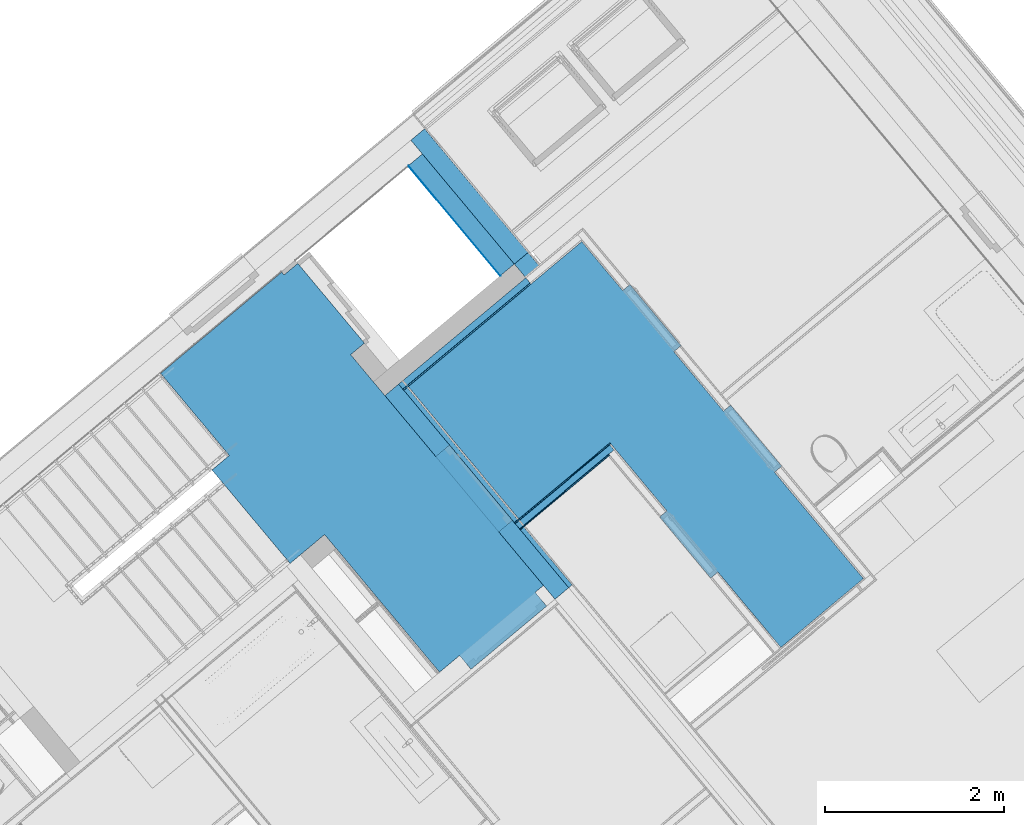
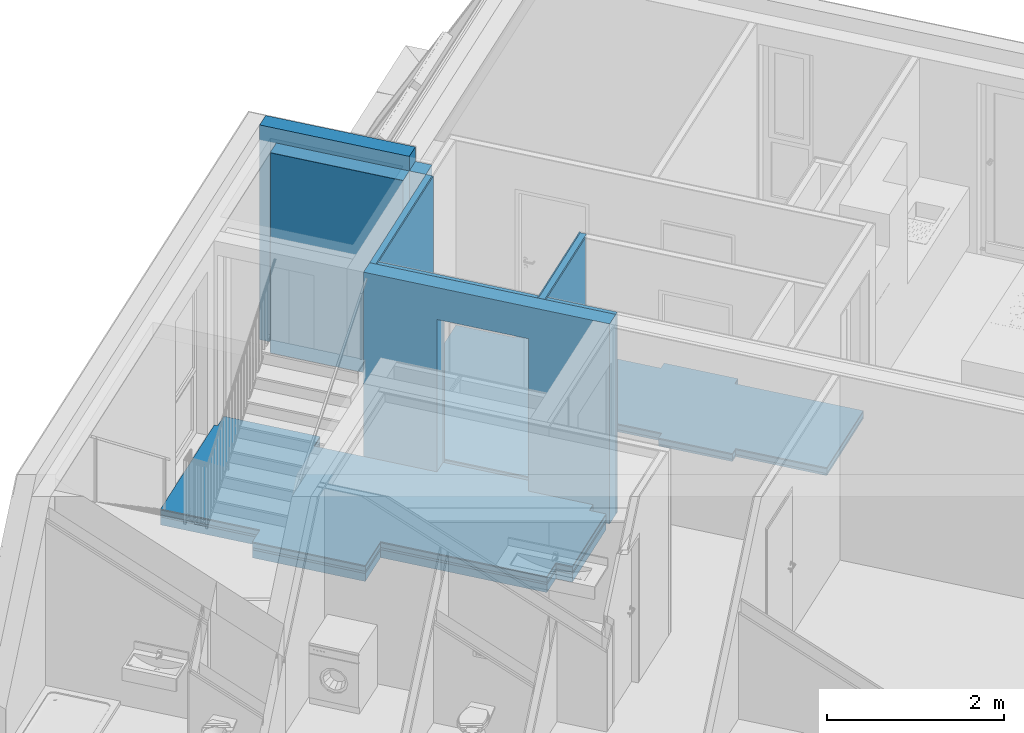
# One storey, part 34 of 58: 17 building element parts, 1 opening, 6 elements without a shape of their own.
"""IFC4 building model written with IfcOpenShell, lengths in metres."""

from ifc_helpers import new_model, entity, si_unit, converted_unit, derived_unit, direction, frame, origin_with_axes, place, context, subcontext, project, spatial, polygons, material, type_object, element, aggregate, save


model = new_model("IFC4")

# Units and contexts
model_context = context("Model", 3, precision=1e-05, world=origin_with_axes(), true_north=direction((0.0, 1.0)))
body_context = subcontext(model_context, "Body", "Model", "MODEL_VIEW")
ifc_project = project(units=[si_unit("LENGTHUNIT", "METRE"), si_unit("AREAUNIT", "SQUARE_METRE"), si_unit("VOLUMEUNIT", "CUBIC_METRE"), converted_unit("PLANEANGLEUNIT", "DEGREE", entity("IfcPlaneAngleMeasure", 0.0174532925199), si_unit("PLANEANGLEUNIT", "RADIAN"), dimensions=[0, 0, 0, 0, 0, 0, 0]), converted_unit("TIMEUNIT", "Year", entity("IfcTimeMeasure", 31556926.0), si_unit("TIMEUNIT", "SECOND"), dimensions=[0, 0, 1, 0, 0, 0, 0]), si_unit("MASSUNIT", "GRAM", prefix="KILO"), si_unit("THERMODYNAMICTEMPERATUREUNIT", "DEGREE_CELSIUS"), si_unit("LUMINOUSINTENSITYUNIT", "LUMEN"), si_unit("ENERGYUNIT", "JOULE", prefix="MEGA"), derived_unit("THERMALCONDUCTANCEUNIT", [(si_unit("POWERUNIT", "WATT"), 1), (si_unit("LENGTHUNIT", "METRE"), -1), (si_unit("THERMODYNAMICTEMPERATUREUNIT", "KELVIN"), -1)]), derived_unit("SPECIFICHEATCAPACITYUNIT", [(si_unit("ENERGYUNIT", "JOULE"), 1), (si_unit("MASSUNIT", "GRAM", prefix="KILO"), -1), (si_unit("THERMODYNAMICTEMPERATUREUNIT", "KELVIN"), -1)]), derived_unit("MASSDENSITYUNIT", [(si_unit("MASSUNIT", "GRAM", prefix="KILO"), 1), (si_unit("VOLUMEUNIT", "CUBIC_METRE"), -1)])], contexts=[model_context])

# Site, building, storey
site_placement = place(None, frame((-0.00153261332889, -0.00661245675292, 0.0), z_axis=(0.0, 0.0, 1.0), x_axis=(1.0, 0.0, 0.0)))
site = spatial("IfcSite", under=ifc_project, at=site_placement, Name="Site", CompositionType="ELEMENT")
building_placement = place(site_placement, origin_with_axes())
building = spatial("IfcBuilding", under=site, at=building_placement, Name="Building", CompositionType="ELEMENT")
storey_placement = place(building_placement, frame((0.0, 0.0, 5.7), z_axis=(0.0, 0.0, 1.0), x_axis=(1.0, 0.0, 0.0)))
storey = spatial("IfcBuildingStorey", under=building, at=storey_placement, Name="DG1", CompositionType="ELEMENT", Elevation=5.7)

# Wall, building element parts
wall_type_1 = type_object("IfcWallType", Name="IW LB 01 Leichtbautrennwand einfach 10,5 cm 105", PredefinedType="NOTDEFINED")
wall_1_placement = place(storey_placement, frame((2.85100989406, 23.0053184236, 0.0), z_axis=(0.0, 0.0, 1.0), x_axis=(0.767406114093, 0.641161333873, 0.0)))
wall_1 = element("IfcWall", 1, at=wall_1_placement, inside=storey, type_object=wall_type_1, Name="Wand-012", PredefinedType="NOTDEFINED")
ifc_material_1 = material(Name="Gipskarton")
building_element_part_1_placement = place(wall_1_placement, origin_with_axes())
building_element_part_1 = element("IfcBuildingElementPart", 2, at=building_element_part_1_placement, material=ifc_material_1, Name="Gipskarton", PredefinedType="NOTDEFINED", context=body_context, shape_type="Tessellation", body=[
    polygons([(1.38919680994, 0.09, 0.0), (0.0, 0.09, 0.0), (0.0, 0.105, 0.0), (1.38919586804, 0.105, 0.0), (1.38919680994, 0.09, 2.76), (0.0, 0.09, 2.76), (0.0, 0.105, 2.76), (1.38919586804, 0.105, 2.76)], [[[1, 2, 3, 4]], [[5, 6, 2, 1]], [[3, 2, 6, 7]], [[4, 3, 7, 8]], [[4, 8, 5, 1]], [[8, 7, 6, 5]]], closed=True),
])
ifc_material_2 = material(Name="Mineralwolle weich")
building_element_part_2_placement = place(wall_1_placement, origin_with_axes())
building_element_part_2 = element("IfcBuildingElementPart", 3, at=building_element_part_2_placement, material=ifc_material_2, Name="Mineralwolle weich", PredefinedType="NOTDEFINED", context=body_context, shape_type="Tessellation", body=[
    polygons([(1.37420151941, 0.015, 0.0), (0.0, 0.015, 0.0), (0.0, 0.09, 0.0), (1.37419680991, 0.09, 0.0), (1.37420151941, 0.015, 2.76), (0.0, 0.015, 2.76), (0.0, 0.09, 2.76), (1.37419680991, 0.09, 2.76)], [[[1, 2, 3, 4]], [[5, 6, 2, 1]], [[3, 2, 6, 7]], [[4, 3, 7, 8]], [[4, 8, 5, 1]], [[8, 7, 6, 5]]], closed=True),
])
building_element_part_3_placement = place(wall_1_placement, origin_with_axes())
building_element_part_3 = element("IfcBuildingElementPart", 4, at=building_element_part_3_placement, material=ifc_material_1, Name="Gipskarton", PredefinedType="NOTDEFINED", context=body_context, shape_type="Tessellation", body=[
    polygons([(1.29920246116, 0.0, 0.0), (0.0, 0.0, 0.0), (0.0, 0.015, 0.0), (1.29920151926, 0.015, 0.0), (1.29920246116, 0.0, 2.76), (0.0, 0.0, 2.76), (0.0, 0.015, 2.76), (1.29920151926, 0.015, 2.76)], [[[1, 2, 3, 4]], [[5, 6, 2, 1]], [[3, 2, 6, 7]], [[4, 3, 7, 8]], [[4, 8, 5, 1]], [[8, 7, 6, 5]]], closed=True),
])
aggregate(wall_1, [building_element_part_1, building_element_part_2, building_element_part_3])

# Wall, opening, building element parts
wall_type_2 = type_object("IfcWallType", Name="LB 6,5 cm einfach Vorsatzschale + STB 265", PredefinedType="NOTDEFINED")
wall_2_placement = place(storey_placement, frame((3.2363659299, 22.2310984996, 0.0), z_axis=(0.0, 0.0, 1.0), x_axis=(-0.640982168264, 0.76755576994, 0.0)))
wall_2 = element("IfcWall", 5, at=wall_2_placement, inside=storey, type_object=wall_type_2, Name="Wand-003", PredefinedType="NOTDEFINED")
opening_placement = place(wall_2_placement, frame((1.52738677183, 0.0, 0.22), z_axis=(0.0, 0.0, 1.0), x_axis=(1.0, 0.0, 0.0)))
element("IfcOpeningElement", 6, at=opening_placement, cuts=wall_2, Name="Tür-001", context=body_context, identifier="Reference", shape_type="Tessellation", body=[
    polygons([(-0.55, -0.125, -0.22), (-0.55, -0.125, 2.1), (-0.55, 1.55634703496, 2.1), (-0.55, 1.55634703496, -0.22), (-0.55, -1.82134703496, -0.22), (-0.55, -1.82134703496, 2.1), (0.55, -0.125, 2.1), (0.55, 1.55634703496, 2.1), (0.55, 1.55634703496, -0.22), (0.55, -0.125, -0.22), (0.55, -1.82134703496, -0.22), (0.55, -1.82134703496, 2.1)], [[[1, 2, 3, 4]], [[2, 1, 5, 6]], [[2, 7, 8, 3]], [[8, 9, 4, 3]], [[10, 1, 4, 9]], [[1, 10, 11, 5]], [[6, 5, 11, 12]], [[7, 2, 6, 12]], [[7, 10, 9, 8]], [[10, 7, 12, 11]]], closed=True),
])
ifc_material_3 = material(Name="Stahlbeton Wand")
building_element_part_4_placement = place(wall_2_placement, origin_with_axes())
building_element_part_4 = element("IfcBuildingElementPart", 7, at=building_element_part_4_placement, material=ifc_material_3, Name="Stahlbeton Wand", PredefinedType="NOTDEFINED", context=body_context, shape_type="Tessellation", body=[
    polygons([(2.07738677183, 0.0, 0.22), (2.07738677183, 0.0, 0.0), (2.07738677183, -0.199958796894, 0.0), (2.07738677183, -0.199958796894, 0.22), (2.07738677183, -0.125, 0.22), (2.07738677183, 0.0, 2.32), (0.977386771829, 0.0, 2.32), (0.977386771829, 0.0, 0.22), (0.977390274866, 0.0, 0.0), (0.0, 0.0, 0.0), (0.0, 0.0, 2.76), (2.9613415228, 0.0, 2.76), (2.9613415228, 0.0, 0.0), (2.96140422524, -0.2, 0.0), (2.07738677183, -0.2, 0.0), (2.07738677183, -0.125, 2.32), (2.07738677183, -0.2, 2.32), (0.977386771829, -0.125, 2.32), (0.977386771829, -0.125, 0.22), (0.977389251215, -0.125, 0.0824866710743), (0.977390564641, -0.125, 0.0), (0.977386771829, -0.2, 0.0), (0.0, -0.2, 0.0), (0.0, -0.2, 2.76), (2.96140422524, -0.2, 2.76), (0.977386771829, -0.2, 2.32)], [[[1, 2, 3, 4, 5]], [[2, 1, 6, 7, 8, 9, 10, 11, 12, 13]], [[2, 13, 14, 15, 3]], [[16, 5, 4, 3, 15, 17]], [[6, 1, 5, 16]], [[6, 16, 18, 7]], [[8, 7, 18, 19]], [[9, 8, 20, 21]], [[9, 21, 22, 23, 10]], [[10, 23, 24, 11]], [[25, 12, 11, 24]], [[13, 12, 25, 14]], [[14, 25, 24, 23, 22, 26, 17, 15]], [[18, 16, 17, 26]], [[21, 20, 19, 18, 26, 22]], [[8, 19, 20]]], closed=True),
])
building_element_part_5_placement = place(wall_2_placement, origin_with_axes())
building_element_part_5 = element("IfcBuildingElementPart", 8, at=building_element_part_5_placement, material=ifc_material_2, Name="Mineralwolle weich", PredefinedType="NOTDEFINED", context=body_context, shape_type="Tessellation", body=[
    polygons([(2.07738677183, -0.25, 2.32), (2.07738677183, -0.25, 0.0), (2.96141990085, -0.25, 0.0), (2.96141990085, -0.25, 2.76), (0.0, -0.25, 2.76), (0.0, -0.25, 0.0), (0.977386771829, -0.25, 0.0), (0.977386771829, -0.25, 2.32), (2.07738677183, -0.2, 2.32), (2.07738677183, -0.2, 0.0), (2.96140422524, -0.2, 0.0), (2.96140422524, -0.2, 2.76), (0.0, -0.2, 2.76), (0.0, -0.2, 0.0), (0.977386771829, -0.2, 0.0), (0.977386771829, -0.2, 2.32)], [[[1, 2, 3, 4, 5, 6, 7, 8]], [[2, 1, 9, 10]], [[2, 10, 11, 3]], [[4, 3, 11, 12]], [[12, 13, 5, 4]], [[5, 13, 14, 6]], [[15, 7, 6, 14]], [[8, 7, 15, 16]], [[1, 8, 16, 9]], [[16, 15, 14, 13, 12, 11, 10, 9]]], closed=True),
])
aggregate(wall_2, [building_element_part_4, building_element_part_5])

# Wall, building element parts
wall_type_3 = type_object("IfcWallType", Name="LB 9,0 cm einfache Vorsatzschale  90", PredefinedType="NOTDEFINED")
wall_3_placement = place(storey_placement, frame((1.49097783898, 24.6317179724, 0.0), z_axis=(0.0, 0.0, 1.0), x_axis=(0.767354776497, 0.641222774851, 0.0)))
wall_3 = element("IfcWall", 9, at=wall_3_placement, inside=storey, type_object=wall_type_3, Name="Wand-006", PredefinedType="NOTDEFINED")
building_element_part_6_placement = place(wall_3_placement, origin_with_axes())
building_element_part_6 = element("IfcBuildingElementPart", 10, at=building_element_part_6_placement, material=ifc_material_2, Name="Mineralwolle weich", PredefinedType="NOTDEFINED", context=body_context, shape_type="Tessellation", body=[
    polygons([(1.85060898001, -0.075, 2.76), (1.85060898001, 0.0, 2.76), (0.0, 0.0, 2.76), (0.0, -0.075, 2.76), (1.85060898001, -0.075, 0.0), (1.85060898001, 0.0, 0.0), (0.0, 0.0, 0.0), (0.0, -0.075, 0.0)], [[[1, 2, 3, 4]], [[1, 5, 6, 2]], [[2, 6, 7, 3]], [[4, 3, 7, 8]], [[5, 1, 4, 8]], [[6, 5, 8, 7]]], closed=True),
])
building_element_part_7_placement = place(wall_3_placement, origin_with_axes())
building_element_part_7 = element("IfcBuildingElementPart", 11, at=building_element_part_7_placement, material=ifc_material_1, Name="Gipskarton", PredefinedType="NOTDEFINED", context=body_context, shape_type="Tessellation", body=[
    polygons([(1.85060898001, -0.09, 2.76), (1.85060898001, -0.075, 2.76), (0.0, -0.075, 2.76), (0.0, -0.09, 2.76), (1.85060898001, -0.09, 0.0), (1.85060898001, -0.075, 0.0), (0.0, -0.075, 0.0), (0.0, -0.09, 0.0)], [[[1, 2, 3, 4]], [[1, 5, 6, 2]], [[2, 6, 7, 3]], [[4, 3, 7, 8]], [[5, 1, 4, 8]], [[6, 5, 8, 7]]], closed=True),
])
aggregate(wall_3, [building_element_part_6, building_element_part_7])

wall_type_4 = type_object("IfcWallType", Name="AW EG 420", PredefinedType="NOTDEFINED")
wall_4_placement = place(storey_placement, frame((2.62547037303, 25.8404084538, 0.0), z_axis=(0.0, 0.0, 1.0), x_axis=(-0.641209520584, 0.767365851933, 0.0)))
wall_4 = element("IfcWall", 12, at=wall_4_placement, inside=storey, type_object=wall_type_4, Name="Wand-003", PredefinedType="NOTDEFINED")
ifc_material_4 = material(Name="Zementputz")
building_element_part_8_placement = place(wall_4_placement, origin_with_axes())
building_element_part_8 = element("IfcBuildingElementPart", 13, at=building_element_part_8_placement, material=ifc_material_4, Name="Zementputz", PredefinedType="NOTDEFINED", context=body_context, shape_type="Tessellation", body=[
    polygons([(1.5961158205, -0.00499999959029, 2.76), (8.63627036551e-08, -0.00499999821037, 2.76), (8.63627320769e-08, -0.005, 0.0), (1.5961158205, -0.005, 0.0), (0.0, 0.0, 2.76), (1.5961158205, 0.0, 2.76), (0.0, 0.0, 0.0), (1.5961158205, 0.0, 0.0)], [[[1, 2, 3, 4]], [[5, 2, 1, 6]], [[2, 5, 7, 3]], [[7, 8, 4, 3]], [[6, 1, 4, 8]], [[5, 6, 8, 7]]], closed=True),
])
building_element_part_9_placement = place(wall_4_placement, origin_with_axes())
building_element_part_9 = element("IfcBuildingElementPart", 14, at=building_element_part_9_placement, material=ifc_material_3, Name="Stahlbeton Wand", PredefinedType="NOTDEFINED", context=body_context, shape_type="Tessellation", body=[
    polygons([(1.6011158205, -0.204998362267, 2.76), (3.54084305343e-06, -0.204998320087, 2.76), (3.54087206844e-06, -0.205, 0.0), (1.6011158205, -0.205, 0.0), (8.63627036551e-08, -0.00499999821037, 2.76), (1.6011158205, -0.00499999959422, 2.76), (8.63627320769e-08, -0.005, 0.0), (1.6011158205, -0.005, 0.0)], [[[1, 2, 3, 4]], [[5, 2, 1, 6]], [[2, 5, 7, 3]], [[7, 8, 4, 3]], [[6, 1, 4, 8]], [[5, 6, 8, 7]]], closed=True),
])
ifc_material_5 = material(Name="EPS 1")
building_element_part_10_placement = place(wall_4_placement, origin_with_axes())
building_element_part_10 = element("IfcBuildingElementPart", 15, at=building_element_part_10_placement, material=ifc_material_5, Name="EPS 1", PredefinedType="NOTDEFINED", context=body_context, shape_type="Tessellation", body=[
    polygons([(1.8011158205, -0.404999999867, 2.9599999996), (0.0, -0.404999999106, 2.95999999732), (0.0, -0.404999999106, 2.76), (-0.199993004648, -0.404999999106, 2.76), (-0.199993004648, -0.405, 0.0), (1.8011158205, -0.405, 0.0), (1.8011158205, -0.205000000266, 2.9599999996), (0.0, -0.205000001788, 2.95999999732), (0.0, -0.205000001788, 2.76), (-0.199996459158, -0.205000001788, 2.76), (-0.199996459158, -0.205, 0.0), (1.8011158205, -0.205, 0.0)], [[[1, 2, 3, 4, 5, 6]], [[7, 8, 2, 1]], [[9, 3, 2, 8]], [[9, 10, 4, 3]], [[5, 4, 10, 11]], [[6, 5, 11, 12]], [[1, 6, 12, 7]], [[10, 9, 8, 7, 12, 11]]], closed=True),
])
aggregate(wall_4, [building_element_part_8, building_element_part_9, building_element_part_10])

# Covering, building element parts
covering_type = type_object("IfcCoveringType", Name="DE 01 Decke Wohnung/Wohnung Fließen 220", PredefinedType="NOTDEFINED")
covering_1_placement = place(storey_placement, frame((0.186566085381, 25.8824577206, 0.22), z_axis=(0.0, 0.0, 1.0), x_axis=(1.0, 0.0, 0.0)))
covering_1 = element("IfcCovering", 16, at=covering_1_placement, inside=storey, type_object=covering_type, Name="Decke-001", PredefinedType="NOTDEFINED")
ifc_material_6 = material(Name="Fliesen")
building_element_part_11_placement = place(covering_1_placement, origin_with_axes())
building_element_part_11 = element("IfcBuildingElementPart", 17, at=building_element_part_11_placement, material=ifc_material_6, Name="Fliesen", PredefinedType="NOTDEFINED", context=body_context, shape_type="Tessellation", body=[
    polygons([(-0.778260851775, -2.20826834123, 0.0), (-0.778260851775, -2.20826834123, -0.015), (0.0937041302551, -3.2516944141, -0.015), (0.0937041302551, -3.2516944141, 0.0), (-0.585114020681, -2.04689200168, 0.0), (-0.585114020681, -2.04689200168, -0.015), (0.209758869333, -3.15471928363, -0.015), (-1.35165504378, -1.12944048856, -0.015), (0.0, 0.0, -0.015), (0.0261738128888, -0.0316235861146, -0.015), (0.0263195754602, -0.0315019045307, -0.015), (0.0263723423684, -0.0315650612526, -0.015), (0.179853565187, 0.096667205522, -0.015), (0.923600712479, -0.793523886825, -0.015), (0.770119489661, -0.9217561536, -0.015), (1.19560069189, -1.43101467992, -0.015), (1.71823196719, -2.05684901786, -0.015), (1.71838130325, -2.05673088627, -0.015), (1.87170895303, -1.92867595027, -0.015), (2.57680608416, -2.77297331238, -0.015), (2.42365877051, -2.90087761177, -0.015), (2.42331235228, -2.90116036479, -0.015), (2.92137021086, -3.4975688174, -0.015), (2.82914340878, -3.57459008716, -0.015), (2.82936440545, -3.57485481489, -0.015), (2.95753349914, -3.72838883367, -0.015), (2.11312690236, -4.43329326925, -0.015), (1.98484605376, -4.27968722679, -0.015), (1.76145878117, -4.46624439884, -0.015), (0.6070804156, -3.083412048, -0.015), (0.478838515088, -2.92993888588, -0.015), (0.286772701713, -3.0904287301, -0.015), (0.209789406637, -3.15475582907, -0.015), (0.209758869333, -3.15471928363, 0.0), (0.209789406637, -3.15475582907, 0.0), (0.286772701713, -3.0904287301, 0.0), (0.478838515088, -2.92993888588, 0.0), (0.6070804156, -3.083412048, 0.0), (1.76145878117, -4.46624439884, 0.0), (1.98484605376, -4.27968722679, 0.0), (2.11312690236, -4.43329326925, 0.0), (2.95753349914, -3.72838883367, 0.0), (2.82936440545, -3.57485481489, 0.0), (2.82914340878, -3.57459008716, 0.0), (2.92137021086, -3.4975688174, 0.0), (2.42331235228, -2.90116036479, 0.0), (2.42365877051, -2.90087761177, 0.0), (2.57680608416, -2.77297331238, 0.0), (1.87170895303, -1.92867595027, 0.0), (1.71838130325, -2.05673088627, 0.0), (1.71823196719, -2.05684901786, 0.0), (1.19560069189, -1.43101467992, 0.0), (0.770119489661, -0.9217561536, 0.0), (0.923600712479, -0.793523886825, 0.0), (0.179853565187, 0.096667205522, 0.0), (0.0263723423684, -0.0315650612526, 0.0), (0.0263195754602, -0.0315019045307, 0.0), (0.0261738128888, -0.0316235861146, 0.0), (0.0, 0.0, 0.0), (-1.35165504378, -1.12944048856, 0.0)], [[[1, 2, 3, 4]], [[2, 1, 5, 6]], [[7, 3, 2, 6, 8, 9, 10, 11, 12, 13, 14, 15, 16, 17, 18, 19, 20, 21, 22, 23, 24, 25, 26, 27, 28, 29, 30, 31, 32, 33]], [[3, 7, 34, 4]], [[4, 34, 35, 36, 37, 38, 39, 40, 41, 42, 43, 44, 45, 46, 47, 48, 49, 50, 51, 52, 53, 54, 55, 56, 57, 58, 59, 60, 5, 1]], [[8, 6, 5, 60]], [[8, 60, 59, 9]], [[58, 10, 9, 59]], [[11, 10, 58, 57]], [[12, 11, 57, 56]], [[12, 56, 55, 13]], [[13, 55, 54, 14]], [[53, 15, 14, 54]], [[16, 15, 53, 52]], [[51, 17, 16, 52]], [[18, 17, 51, 50]], [[19, 18, 50, 49]], [[19, 49, 48, 20]], [[47, 21, 20, 48]], [[22, 21, 47, 46]], [[22, 46, 45, 23]], [[24, 23, 45, 44]], [[43, 25, 24, 44]], [[26, 25, 43, 42]], [[41, 27, 26, 42]], [[28, 27, 41, 40]], [[29, 28, 40, 39]], [[30, 29, 39, 38]], [[31, 30, 38, 37]], [[35, 33, 32, 31, 37, 36]], [[7, 33, 35, 34]]], closed=True),
])
ifc_material_7 = material(Name="Estrich")
building_element_part_12_placement = place(covering_1_placement, origin_with_axes())
building_element_part_12 = element("IfcBuildingElementPart", 18, at=building_element_part_12_placement, material=ifc_material_7, Name="Estrich", PredefinedType="NOTDEFINED", context=body_context, shape_type="Tessellation", body=[
    polygons([(-0.778260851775, -2.20826834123, -0.015), (-0.778260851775, -2.20826834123, -0.08), (0.0937041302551, -3.2516944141, -0.08), (0.0937041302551, -3.2516944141, -0.015), (-0.585114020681, -2.04689200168, -0.015), (-0.585114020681, -2.04689200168, -0.08), (0.209758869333, -3.15471928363, -0.08), (-1.35165504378, -1.12944048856, -0.08), (0.0, 0.0, -0.08), (0.0261738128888, -0.0316235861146, -0.08), (0.0263195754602, -0.0315019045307, -0.08), (0.0263723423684, -0.0315650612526, -0.08), (0.179853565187, 0.096667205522, -0.08), (0.923600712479, -0.793523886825, -0.08), (0.770119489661, -0.9217561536, -0.08), (1.19560069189, -1.43101467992, -0.08), (1.71823196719, -2.05684901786, -0.08), (1.71838130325, -2.05673088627, -0.08), (1.87170895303, -1.92867595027, -0.08), (2.57680608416, -2.77297331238, -0.08), (2.42365877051, -2.90087761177, -0.08), (2.42331235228, -2.90116036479, -0.08), (2.92137021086, -3.4975688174, -0.08), (2.82914340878, -3.57459008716, -0.08), (2.82936440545, -3.57485481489, -0.08), (2.95753349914, -3.72838883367, -0.08), (2.11312690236, -4.43329326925, -0.08), (1.98484605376, -4.27968722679, -0.08), (1.76145878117, -4.46624439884, -0.08), (0.6070804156, -3.083412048, -0.08), (0.478838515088, -2.92993888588, -0.08), (0.286772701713, -3.0904287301, -0.08), (0.209789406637, -3.15475582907, -0.08), (0.209758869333, -3.15471928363, -0.015), (0.209789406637, -3.15475582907, -0.015), (0.286772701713, -3.0904287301, -0.015), (0.478838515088, -2.92993888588, -0.015), (0.6070804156, -3.083412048, -0.015), (1.76145878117, -4.46624439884, -0.015), (1.98484605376, -4.27968722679, -0.015), (2.11312690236, -4.43329326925, -0.015), (2.95753349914, -3.72838883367, -0.015), (2.82936440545, -3.57485481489, -0.015), (2.82914340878, -3.57459008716, -0.015), (2.92137021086, -3.4975688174, -0.015), (2.42331235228, -2.90116036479, -0.015), (2.42365877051, -2.90087761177, -0.015), (2.57680608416, -2.77297331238, -0.015), (1.87170895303, -1.92867595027, -0.015), (1.71838130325, -2.05673088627, -0.015), (1.71823196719, -2.05684901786, -0.015), (1.19560069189, -1.43101467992, -0.015), (0.770119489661, -0.9217561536, -0.015), (0.923600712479, -0.793523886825, -0.015), (0.179853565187, 0.096667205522, -0.015), (0.0263723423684, -0.0315650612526, -0.015), (0.0263195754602, -0.0315019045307, -0.015), (0.0261738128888, -0.0316235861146, -0.015), (0.0, 0.0, -0.015), (-1.35165504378, -1.12944048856, -0.015)], [[[1, 2, 3, 4]], [[2, 1, 5, 6]], [[7, 3, 2, 6, 8, 9, 10, 11, 12, 13, 14, 15, 16, 17, 18, 19, 20, 21, 22, 23, 24, 25, 26, 27, 28, 29, 30, 31, 32, 33]], [[3, 7, 34, 4]], [[4, 34, 35, 36, 37, 38, 39, 40, 41, 42, 43, 44, 45, 46, 47, 48, 49, 50, 51, 52, 53, 54, 55, 56, 57, 58, 59, 60, 5, 1]], [[8, 6, 5, 60]], [[8, 60, 59, 9]], [[58, 10, 9, 59]], [[11, 10, 58, 57]], [[12, 11, 57, 56]], [[12, 56, 55, 13]], [[13, 55, 54, 14]], [[53, 15, 14, 54]], [[16, 15, 53, 52]], [[51, 17, 16, 52]], [[18, 17, 51, 50]], [[19, 18, 50, 49]], [[19, 49, 48, 20]], [[47, 21, 20, 48]], [[22, 21, 47, 46]], [[22, 46, 45, 23]], [[24, 23, 45, 44]], [[43, 25, 24, 44]], [[26, 25, 43, 42]], [[41, 27, 26, 42]], [[28, 27, 41, 40]], [[29, 28, 40, 39]], [[30, 29, 39, 38]], [[31, 30, 38, 37]], [[35, 33, 32, 31, 37, 36]], [[7, 33, 35, 34]]], closed=True),
])
ifc_material_8 = material(Name="Trittschalldämmung")
building_element_part_13_placement = place(covering_1_placement, origin_with_axes())
building_element_part_13 = element("IfcBuildingElementPart", 19, at=building_element_part_13_placement, material=ifc_material_8, Name="Trittschalldämmung", PredefinedType="NOTDEFINED", context=body_context, shape_type="Tessellation", body=[
    polygons([(-0.778260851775, -2.20826834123, -0.11), (0.0937041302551, -3.2516944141, -0.11), (0.0937041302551, -3.2516944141, -0.08), (-0.778260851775, -2.20826834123, -0.08), (-0.585114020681, -2.04689200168, -0.11), (-1.35165504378, -1.12944048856, -0.11), (0.0, 0.0, -0.11), (0.0261738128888, -0.0316235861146, -0.11), (0.0263195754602, -0.0315019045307, -0.11), (0.0263723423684, -0.0315650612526, -0.11), (0.179853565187, 0.096667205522, -0.11), (0.923600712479, -0.793523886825, -0.11), (0.770119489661, -0.9217561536, -0.11), (1.19560069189, -1.43101467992, -0.11), (1.71823196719, -2.05684901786, -0.11), (1.71838130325, -2.05673088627, -0.11), (1.87170895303, -1.92867595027, -0.11), (2.57680608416, -2.77297331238, -0.11), (2.42365877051, -2.90087761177, -0.11), (2.42331235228, -2.90116036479, -0.11), (2.92137021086, -3.4975688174, -0.11), (2.82914340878, -3.57459008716, -0.11), (2.82936440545, -3.57485481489, -0.11), (2.95753349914, -3.72838883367, -0.11), (2.11312690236, -4.43329326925, -0.11), (1.98484605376, -4.27968722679, -0.11), (1.76145878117, -4.46624439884, -0.11), (0.6070804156, -3.083412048, -0.11), (0.478838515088, -2.92993888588, -0.11), (0.286772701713, -3.0904287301, -0.11), (0.209789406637, -3.15475582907, -0.11), (0.209758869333, -3.15471928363, -0.11), (0.209758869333, -3.15471928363, -0.08), (0.209789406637, -3.15475582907, -0.08), (0.286772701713, -3.0904287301, -0.08), (0.478838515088, -2.92993888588, -0.08), (0.6070804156, -3.083412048, -0.08), (1.76145878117, -4.46624439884, -0.08), (1.98484605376, -4.27968722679, -0.08), (2.11312690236, -4.43329326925, -0.08), (2.95753349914, -3.72838883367, -0.08), (2.82936440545, -3.57485481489, -0.08), (2.82914340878, -3.57459008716, -0.08), (2.92137021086, -3.4975688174, -0.08), (2.42331235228, -2.90116036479, -0.08), (2.42365877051, -2.90087761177, -0.08), (2.57680608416, -2.77297331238, -0.08), (1.87170895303, -1.92867595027, -0.08), (1.71838130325, -2.05673088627, -0.08), (1.71823196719, -2.05684901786, -0.08), (1.19560069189, -1.43101467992, -0.08), (0.770119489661, -0.9217561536, -0.08), (0.923600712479, -0.793523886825, -0.08), (0.179853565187, 0.096667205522, -0.08), (0.0263723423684, -0.0315650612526, -0.08), (0.0263195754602, -0.0315019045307, -0.08), (0.0261738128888, -0.0316235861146, -0.08), (0.0, 0.0, -0.08), (-1.35165504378, -1.12944048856, -0.08), (-0.585114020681, -2.04689200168, -0.08)], [[[1, 2, 3, 4]], [[2, 1, 5, 6, 7, 8, 9, 10, 11, 12, 13, 14, 15, 16, 17, 18, 19, 20, 21, 22, 23, 24, 25, 26, 27, 28, 29, 30, 31, 32]], [[2, 32, 33, 3]], [[4, 3, 33, 34, 35, 36, 37, 38, 39, 40, 41, 42, 43, 44, 45, 46, 47, 48, 49, 50, 51, 52, 53, 54, 55, 56, 57, 58, 59, 60]], [[1, 4, 60, 5]], [[6, 5, 60, 59]], [[6, 59, 58, 7]], [[57, 8, 7, 58]], [[9, 8, 57, 56]], [[10, 9, 56, 55]], [[10, 55, 54, 11]], [[11, 54, 53, 12]], [[52, 13, 12, 53]], [[14, 13, 52, 51]], [[50, 15, 14, 51]], [[16, 15, 50, 49]], [[17, 16, 49, 48]], [[17, 48, 47, 18]], [[46, 19, 18, 47]], [[45, 20, 19, 46]], [[20, 45, 44, 21]], [[22, 21, 44, 43]], [[42, 23, 22, 43]], [[24, 23, 42, 41]], [[40, 25, 24, 41]], [[26, 25, 40, 39]], [[27, 26, 39, 38]], [[28, 27, 38, 37]], [[28, 37, 36, 29]], [[34, 31, 30, 29, 36, 35]], [[32, 31, 34, 33]]], closed=True),
])
ifc_material_9 = material(Name="Schüttung")
building_element_part_14_placement = place(covering_1_placement, origin_with_axes())
building_element_part_14 = element("IfcBuildingElementPart", 20, at=building_element_part_14_placement, material=ifc_material_9, Name="Schüttung", PredefinedType="NOTDEFINED", context=body_context, shape_type="Tessellation", body=[
    polygons([(0.0937041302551, -3.2516944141, -0.22), (0.209758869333, -3.15471928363, -0.22), (0.209758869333, -3.15471928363, -0.11), (0.0937041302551, -3.2516944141, -0.11), (-0.778260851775, -2.20826834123, -0.22), (-0.585114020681, -2.04689200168, -0.22), (-1.35165504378, -1.12944048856, -0.22), (0.0, 0.0, -0.22), (0.0261738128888, -0.0316235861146, -0.22), (0.0263195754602, -0.0315019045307, -0.22), (0.0263723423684, -0.0315650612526, -0.22), (0.179853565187, 0.096667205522, -0.22), (0.923600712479, -0.793523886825, -0.22), (0.770119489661, -0.9217561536, -0.22), (1.19560069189, -1.43101467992, -0.22), (1.71823196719, -2.05684901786, -0.22), (1.71838130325, -2.05673088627, -0.22), (1.87170895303, -1.92867595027, -0.22), (2.57680608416, -2.77297331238, -0.22), (2.42365877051, -2.90087761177, -0.22), (2.42331235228, -2.90116036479, -0.22), (2.92137021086, -3.4975688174, -0.22), (2.82914340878, -3.57459008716, -0.22), (2.82936440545, -3.57485481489, -0.22), (2.95753349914, -3.72838883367, -0.22), (2.11312690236, -4.43329326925, -0.22), (1.98484605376, -4.27968722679, -0.22), (1.76145878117, -4.46624439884, -0.22), (0.6070804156, -3.083412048, -0.22), (0.478838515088, -2.92993888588, -0.22), (0.286772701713, -3.0904287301, -0.22), (0.209789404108, -3.15475582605, -0.22), (0.209789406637, -3.15475582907, -0.11), (0.286772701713, -3.0904287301, -0.11), (0.478838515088, -2.92993888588, -0.11), (0.6070804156, -3.083412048, -0.11), (1.76145878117, -4.46624439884, -0.11), (1.98484605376, -4.27968722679, -0.11), (2.11312690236, -4.43329326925, -0.11), (2.95753349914, -3.72838883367, -0.11), (2.82936440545, -3.57485481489, -0.11), (2.82914340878, -3.57459008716, -0.11), (2.92137021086, -3.4975688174, -0.11), (2.42331235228, -2.90116036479, -0.11), (2.42365877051, -2.90087761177, -0.11), (2.57680608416, -2.77297331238, -0.11), (1.87170895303, -1.92867595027, -0.11), (1.71838130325, -2.05673088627, -0.11), (1.71823196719, -2.05684901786, -0.11), (1.19560069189, -1.43101467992, -0.11), (0.770119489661, -0.9217561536, -0.11), (0.923600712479, -0.793523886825, -0.11), (0.179853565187, 0.096667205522, -0.11), (0.0263723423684, -0.0315650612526, -0.11), (0.0263195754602, -0.0315019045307, -0.11), (0.0261738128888, -0.0316235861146, -0.11), (0.0, 0.0, -0.11), (-1.35165504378, -1.12944048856, -0.11), (-0.585114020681, -2.04689200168, -0.11), (-0.778260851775, -2.20826834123, -0.11)], [[[1, 2, 3, 4]], [[1, 5, 6, 7, 8, 9, 10, 11, 12, 13, 14, 15, 16, 17, 18, 19, 20, 21, 22, 23, 24, 25, 26, 27, 28, 29, 30, 31, 32, 2]], [[2, 32, 33, 3]], [[4, 3, 33, 34, 35, 36, 37, 38, 39, 40, 41, 42, 43, 44, 45, 46, 47, 48, 49, 50, 51, 52, 53, 54, 55, 56, 57, 58, 59, 60]], [[5, 1, 4, 60]], [[5, 60, 59, 6]], [[7, 6, 59, 58]], [[7, 58, 57, 8]], [[56, 9, 8, 57]], [[10, 9, 56, 55]], [[11, 10, 55, 54]], [[11, 54, 53, 12]], [[12, 53, 52, 13]], [[51, 14, 13, 52]], [[15, 14, 51, 50]], [[49, 16, 15, 50]], [[17, 16, 49, 48]], [[18, 17, 48, 47]], [[18, 47, 46, 19]], [[45, 20, 19, 46]], [[21, 20, 45, 44]], [[21, 44, 43, 22]], [[23, 22, 43, 42]], [[41, 24, 23, 42]], [[25, 24, 41, 40]], [[39, 26, 25, 40]], [[27, 26, 39, 38]], [[28, 27, 38, 37]], [[29, 28, 37, 36]], [[30, 29, 36, 35]], [[33, 32, 31, 30, 35, 34]]], closed=True),
])
aggregate(covering_1, [building_element_part_11, building_element_part_12, building_element_part_13, building_element_part_14])

covering_2_placement = place(storey_placement, frame((3.53540854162, 26.2228144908, 0.22), z_axis=(0.0, 0.0, 1.0), x_axis=(1.0, 0.0, 0.0)))
covering_2 = element("IfcCovering", 21, at=covering_2_placement, inside=storey, type_object=covering_type, Name="Decke-001", PredefinedType="NOTDEFINED")
building_element_part_15_placement = place(covering_2_placement, origin_with_axes())
building_element_part_15 = element("IfcBuildingElementPart", 22, at=building_element_part_15_placement, material=ifc_material_6, Name="Fliesen", PredefinedType="NOTDEFINED", context=body_context, shape_type="Tessellation", body=[
    polygons([(-1.93615181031, -1.6179017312, 0.0), (-0.702187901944, -3.09553428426, 0.0), (0.314356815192, -2.24621974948, 0.0), (0.948949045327, -3.00566633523, 0.0), (0.86837563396, -3.07299338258, 0.0), (1.43905209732, -3.75594898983, 0.0), (1.5196247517, -3.68862254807, 0.0), (2.22264850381, -4.52996639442, 0.0), (3.1432594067, -3.76168765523, 0.0), (2.15130708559, -2.57457127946, 0.0), (2.23188049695, -2.50724423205, 0.0), (1.66120403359, -1.8242886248, 0.0), (1.58063062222, -1.89161567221, 0.0), (1.02722238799, -1.22932570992, 0.0), (1.10779579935, -1.16199873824, 0.0), (0.53711933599, -0.479043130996, 0.0), (0.456545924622, -0.546370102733, 0.0), (0.0, 0.0, 0.0), (-0.702187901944, -3.09553428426, -0.015), (-1.93615181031, -1.6179017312, -0.015), (0.314356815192, -2.24621974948, -0.015), (0.948949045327, -3.00566633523, -0.015), (0.86837563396, -3.07299338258, -0.015), (1.43905209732, -3.75594898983, -0.015), (1.5196247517, -3.68862254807, -0.015), (2.22264850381, -4.52996639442, -0.015), (3.1432594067, -3.76168765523, -0.015), (2.15130708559, -2.57457127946, -0.015), (2.23188049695, -2.50724423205, -0.015), (1.66120403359, -1.8242886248, -0.015), (1.58063062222, -1.89161567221, -0.015), (1.02722238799, -1.22932570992, -0.015), (1.10779579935, -1.16199873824, -0.015), (0.53711933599, -0.479043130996, -0.015), (0.456545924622, -0.546370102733, -0.015), (0.0, 0.0, -0.015)], [[[1, 2, 3, 4, 5, 6, 7, 8, 9, 10, 11, 12, 13, 14, 15, 16, 17, 18]], [[19, 2, 1, 20]], [[2, 19, 21, 3]], [[3, 21, 22, 4]], [[22, 23, 5, 4]], [[23, 24, 6, 5]], [[24, 25, 7, 6]], [[25, 26, 8, 7]], [[26, 27, 9, 8]], [[27, 28, 10, 9]], [[28, 29, 11, 10]], [[29, 30, 12, 11]], [[30, 31, 13, 12]], [[31, 32, 14, 13]], [[32, 33, 15, 14]], [[33, 34, 16, 15]], [[34, 35, 17, 16]], [[35, 36, 18, 17]], [[20, 1, 18, 36]], [[19, 20, 36, 35, 34, 33, 32, 31, 30, 29, 28, 27, 26, 25, 24, 23, 22, 21]]], closed=True),
])
building_element_part_16_placement = place(covering_2_placement, origin_with_axes())
building_element_part_16 = element("IfcBuildingElementPart", 23, at=building_element_part_16_placement, material=ifc_material_7, Name="Estrich", PredefinedType="NOTDEFINED", context=body_context, shape_type="Tessellation", body=[
    polygons([(-1.93615181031, -1.6179017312, -0.015), (-0.702187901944, -3.09553428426, -0.015), (0.314356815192, -2.24621974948, -0.015), (0.948949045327, -3.00566633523, -0.015), (0.86837563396, -3.07299338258, -0.015), (1.43905209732, -3.75594898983, -0.015), (1.5196247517, -3.68862254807, -0.015), (2.22264850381, -4.52996639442, -0.015), (3.1432594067, -3.76168765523, -0.015), (2.15130708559, -2.57457127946, -0.015), (2.23188049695, -2.50724423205, -0.015), (1.66120403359, -1.8242886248, -0.015), (1.58063062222, -1.89161567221, -0.015), (1.02722238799, -1.22932570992, -0.015), (1.10779579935, -1.16199873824, -0.015), (0.53711933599, -0.479043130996, -0.015), (0.456545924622, -0.546370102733, -0.015), (0.0, 0.0, -0.015), (-0.702187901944, -3.09553428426, -0.08), (-1.93615181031, -1.6179017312, -0.08), (0.314356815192, -2.24621974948, -0.08), (0.948949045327, -3.00566633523, -0.08), (0.86837563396, -3.07299338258, -0.08), (1.43905209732, -3.75594898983, -0.08), (1.5196247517, -3.68862254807, -0.08), (2.22264850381, -4.52996639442, -0.08), (3.1432594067, -3.76168765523, -0.08), (2.15130708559, -2.57457127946, -0.08), (2.23188049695, -2.50724423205, -0.08), (1.66120403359, -1.8242886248, -0.08), (1.58063062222, -1.89161567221, -0.08), (1.02722238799, -1.22932570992, -0.08), (1.10779579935, -1.16199873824, -0.08), (0.53711933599, -0.479043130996, -0.08), (0.456545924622, -0.546370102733, -0.08), (0.0, 0.0, -0.08)], [[[1, 2, 3, 4, 5, 6, 7, 8, 9, 10, 11, 12, 13, 14, 15, 16, 17, 18]], [[19, 2, 1, 20]], [[2, 19, 21, 3]], [[3, 21, 22, 4]], [[22, 23, 5, 4]], [[23, 24, 6, 5]], [[24, 25, 7, 6]], [[25, 26, 8, 7]], [[26, 27, 9, 8]], [[27, 28, 10, 9]], [[28, 29, 11, 10]], [[29, 30, 12, 11]], [[30, 31, 13, 12]], [[31, 32, 14, 13]], [[32, 33, 15, 14]], [[33, 34, 16, 15]], [[34, 35, 17, 16]], [[35, 36, 18, 17]], [[20, 1, 18, 36]], [[19, 20, 36, 35, 34, 33, 32, 31, 30, 29, 28, 27, 26, 25, 24, 23, 22, 21]]], closed=True),
])
building_element_part_17_placement = place(covering_2_placement, origin_with_axes())
building_element_part_17 = element("IfcBuildingElementPart", 24, at=building_element_part_17_placement, material=ifc_material_8, Name="Trittschalldämmung", PredefinedType="NOTDEFINED", context=body_context, shape_type="Tessellation", body=[
    polygons([(-1.93615181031, -1.6179017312, -0.08), (-0.702187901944, -3.09553428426, -0.08), (0.314356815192, -2.24621974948, -0.08), (0.948949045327, -3.00566633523, -0.08), (0.86837563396, -3.07299338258, -0.08), (1.43905209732, -3.75594898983, -0.08), (1.5196247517, -3.68862254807, -0.08), (2.22264850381, -4.52996639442, -0.08), (3.1432594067, -3.76168765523, -0.08), (2.15130708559, -2.57457127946, -0.08), (2.23188049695, -2.50724423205, -0.08), (1.66120403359, -1.8242886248, -0.08), (1.58063062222, -1.89161567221, -0.08), (1.02722238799, -1.22932570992, -0.08), (1.10779579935, -1.16199873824, -0.08), (0.53711933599, -0.479043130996, -0.08), (0.456545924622, -0.546370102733, -0.08), (0.0, 0.0, -0.08), (-0.702187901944, -3.09553428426, -0.11), (-1.93615181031, -1.6179017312, -0.11), (0.314356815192, -2.24621974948, -0.11), (0.948949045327, -3.00566633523, -0.11), (0.86837563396, -3.07299338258, -0.11), (1.43905209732, -3.75594898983, -0.11), (1.5196247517, -3.68862254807, -0.11), (2.22264850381, -4.52996639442, -0.11), (3.1432594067, -3.76168765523, -0.11), (2.15130708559, -2.57457127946, -0.11), (2.23188049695, -2.50724423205, -0.11), (1.66120403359, -1.8242886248, -0.11), (1.58063062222, -1.89161567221, -0.11), (1.02722238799, -1.22932570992, -0.11), (1.10779579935, -1.16199873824, -0.11), (0.53711933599, -0.479043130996, -0.11), (0.456545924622, -0.546370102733, -0.11), (0.0, 0.0, -0.11)], [[[1, 2, 3, 4, 5, 6, 7, 8, 9, 10, 11, 12, 13, 14, 15, 16, 17, 18]], [[19, 2, 1, 20]], [[2, 19, 21, 3]], [[3, 21, 22, 4]], [[22, 23, 5, 4]], [[23, 24, 6, 5]], [[24, 25, 7, 6]], [[25, 26, 8, 7]], [[26, 27, 9, 8]], [[27, 28, 10, 9]], [[28, 29, 11, 10]], [[29, 30, 12, 11]], [[30, 31, 13, 12]], [[31, 32, 14, 13]], [[32, 33, 15, 14]], [[33, 34, 16, 15]], [[34, 35, 17, 16]], [[35, 36, 18, 17]], [[20, 1, 18, 36]], [[19, 20, 36, 35, 34, 33, 32, 31, 30, 29, 28, 27, 26, 25, 24, 23, 22, 21]]], closed=True),
])
aggregate(covering_2, [building_element_part_15, building_element_part_16, building_element_part_17])

save(model, "model.ifc")
